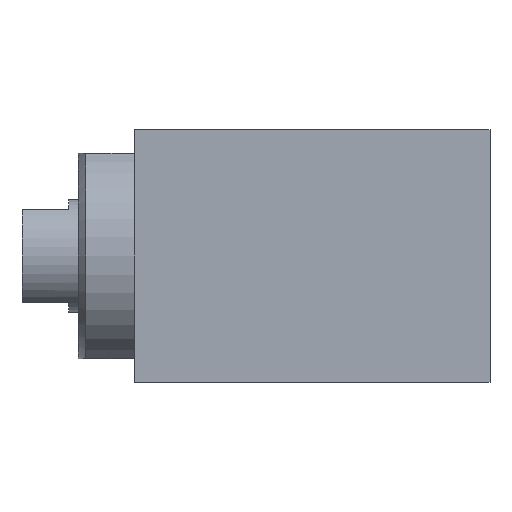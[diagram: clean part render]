
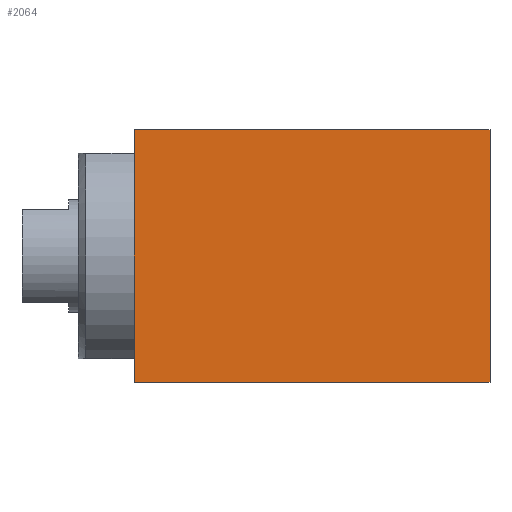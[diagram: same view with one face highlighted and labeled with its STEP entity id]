
A CAD part, front view. The second image highlights one B-rep face of the part: STEP entity #2064.
In plain terms, the highlighted planar face has unit normal (0, -1, 0).
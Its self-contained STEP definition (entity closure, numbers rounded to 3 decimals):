
#74 = LINE ( 'NONE', #2406, #1130 ) ;
#88 = CARTESIAN_POINT ( 'NONE',  ( 0., -11.5, -6.75 ) ) ;
#205 = LINE ( 'NONE', #2077, #2560 ) ;
#265 = EDGE_LOOP ( 'NONE', ( #526, #999, #2681, #2871 ) ) ;
#364 = EDGE_CURVE ( 'NONE', #642, #578, #205, .T. ) ;
#526 = ORIENTED_EDGE ( 'NONE', *, *, #364, .F. ) ;
#541 = LINE ( 'NONE', #2209, #2050 ) ;
#551 = DIRECTION ( 'NONE',  ( 0., -1., 0. ) ) ;
#578 = VERTEX_POINT ( 'NONE', #2806 ) ;
#588 = CARTESIAN_POINT ( 'NONE',  ( 19., -11.5, -6.75 ) ) ;
#642 = VERTEX_POINT ( 'NONE', #88 ) ;
#690 = EDGE_CURVE ( 'NONE', #1649, #642, #541, .T. ) ;
#737 = DIRECTION ( 'NONE',  ( -1., 0., 0. ) ) ;
#847 = CARTESIAN_POINT ( 'NONE',  ( 19., -11.5, -6.75 ) ) ;
#999 = ORIENTED_EDGE ( 'NONE', *, *, #690, .F. ) ;
#1054 = EDGE_CURVE ( 'NONE', #1093, #578, #74, .T. ) ;
#1093 = VERTEX_POINT ( 'NONE', #2225 ) ;
#1130 = VECTOR ( 'NONE', #737, 1000. ) ;
#1146 = EDGE_CURVE ( 'NONE', #1649, #1093, #1970, .T. ) ;
#1565 = DIRECTION ( 'NONE',  ( 0., 0., 1. ) ) ;
#1649 = VERTEX_POINT ( 'NONE', #588 ) ;
#1970 = LINE ( 'NONE', #847, #2691 ) ;
#1995 = PLANE ( 'NONE',  #1997 ) ;
#1997 = AXIS2_PLACEMENT_3D ( 'NONE', #2674, #551, #2460 ) ;
#2019 = DIRECTION ( 'NONE',  ( 0., 0., 1. ) ) ;
#2050 = VECTOR ( 'NONE', #2405, 1000. ) ;
#2064 = ADVANCED_FACE ( 'NONE', ( #2897 ), #1995, .T. ) ;
#2077 = CARTESIAN_POINT ( 'NONE',  ( 0., -11.5, -6.75 ) ) ;
#2209 = CARTESIAN_POINT ( 'NONE',  ( 19., -11.5, -6.75 ) ) ;
#2225 = CARTESIAN_POINT ( 'NONE',  ( 19., -11.5, 6.75 ) ) ;
#2405 = DIRECTION ( 'NONE',  ( -1., 0., 0. ) ) ;
#2406 = CARTESIAN_POINT ( 'NONE',  ( 19., -11.5, 6.75 ) ) ;
#2460 = DIRECTION ( 'NONE',  ( 1., 0., 0. ) ) ;
#2560 = VECTOR ( 'NONE', #1565, 1000. ) ;
#2674 = CARTESIAN_POINT ( 'NONE',  ( 19., -11.5, -6.75 ) ) ;
#2681 = ORIENTED_EDGE ( 'NONE', *, *, #1146, .T. ) ;
#2691 = VECTOR ( 'NONE', #2019, 1000. ) ;
#2806 = CARTESIAN_POINT ( 'NONE',  ( 0., -11.5, 6.75 ) ) ;
#2871 = ORIENTED_EDGE ( 'NONE', *, *, #1054, .T. ) ;
#2897 = FACE_OUTER_BOUND ( 'NONE', #265, .T. ) ;
